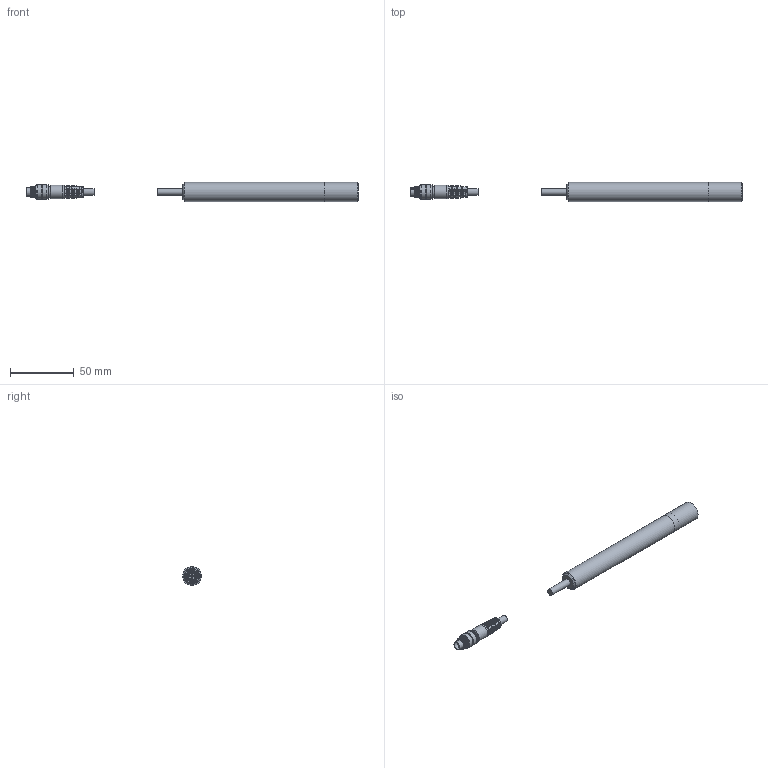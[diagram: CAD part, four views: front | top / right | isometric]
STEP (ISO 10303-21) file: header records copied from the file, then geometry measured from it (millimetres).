
FILE_DESCRIPTION (( 'STEP AP214' ), '1' );
FILE_NAME ('UV_LED_Spot_P.STEP', '2021-12-09T11:43:12', ( '' ), ( '' ), 'SwSTEP 2.0', 'SolidWorks 2021', '' );
FILE_SCHEMA (( 'AUTOMOTIVE_DESIGN' ));
Length unit declared in the file: millimetre
Products named in the file (8): UV_LED_Punktlichtquelle_Abdeckung_Stiftende_v2_spot P; UV_LED_Punktlichtquelle_Huellrohr_v3_SpotP; 79-1409-XXX-04-001_00.stp; UV_LED_Punktlichquelle_Kabeldummy_spotP; UV_LED_Optik_Huellrohr_v2; UV_LED_Punktlichtquelle_Optik_v2; UV_LED_Punktlichtquelle_Zusammenbau_allgemein_v3_SpotP; UV_LED_Spot_P
Assembly tree (7 placements, depth 4):
  UV_LED_Spot_P
    UV_LED_Punktlichtquelle_Zusammenbau_allgemein_v3_SpotP
      UV_LED_Punktlichtquelle_Huellrohr_v3_SpotP
      UV_LED_Punktlichtquelle_Optik_v2
        UV_LED_Optik_Huellrohr_v2
    UV_LED_Punktlichtquelle_Abdeckung_Stiftende_v2_spot P
    UV_LED_Punktlichquelle_Kabeldummy_spotP
    79-1409-XXX-04-001_00.stp
Bounding box: 261.4 x 15 x 15 mm (x, y, z)
Volume: 15974.8 mm3; surface area: 16291.6 mm2
Topology: 5 solids, 6 shells, 263 faces, 656 edges, 428 vertices
Faces by surface type: plane 113, cylinder 100, cone 26, bspline 18, sphere 4, torus 2
Full cylindrical faces by diameter (mm): 1 x5, 1.5 x2, 5.3 x2, 5.4 x1, 6 x1, 6.6 x1, 7.5 x2, 8 x1, 10.5 x1, 11 x1, 11.2 x3, 11.4 x1, 11.5 x2, 11.9 x1, 12.1 x1, 12.8 x1, 13 x1, 13.2 x1, 13.46 x1, 14 x2, 15 x2
Entity records: 11582 total; most frequent: CARTESIAN_POINT 5609, DIRECTION 1149, ORIENTED_EDGE 1104, EDGE_CURVE 552, AXIS2_PLACEMENT_3D 448, VERTEX_POINT 390, EDGE_LOOP 360, FACE_OUTER_BOUND 298
